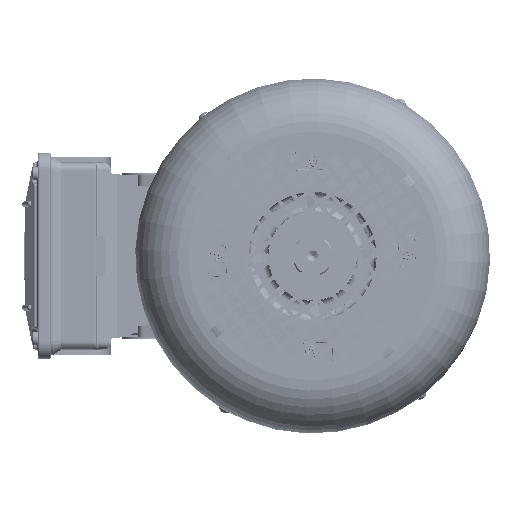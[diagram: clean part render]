
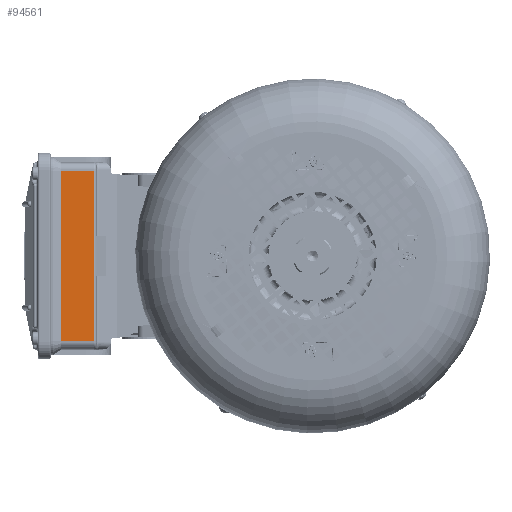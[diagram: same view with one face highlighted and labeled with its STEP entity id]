
A CAD part, left-side view. The second image highlights one B-rep face of the part: STEP entity #94561.
In plain terms, the highlighted planar face has unit normal (-1, 0, 0) as drawn and (1, 0, 0) by its records, which use the part's own axes.
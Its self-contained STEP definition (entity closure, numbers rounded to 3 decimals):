
#1135 = DIRECTION ( 'NONE',  ( 0., 0., 1. ) ) ;
#4353 = AXIS2_PLACEMENT_3D ( 'NONE', #5891, #18408, #105190 ) ;
#5891 = CARTESIAN_POINT ( 'NONE',  ( 92.5, -282.704, -62.5 ) ) ;
#11300 = CARTESIAN_POINT ( 'NONE',  ( 92.5, -282.704, -62.5 ) ) ;
#13905 = VECTOR ( 'NONE', #1135, 1000. ) ;
#16461 = VERTEX_POINT ( 'NONE', #102244 ) ;
#18408 = DIRECTION ( 'NONE',  ( -1., 0., 0. ) ) ;
#39490 = CARTESIAN_POINT ( 'NONE',  ( 92.5, -11.7, -62.5 ) ) ;
#41153 = CARTESIAN_POINT ( 'NONE',  ( 92.5, -35.5, -62.5 ) ) ;
#45453 = EDGE_CURVE ( 'NONE', #114193, #16461, #112890, .T. ) ;
#48240 = DIRECTION ( 'NONE',  ( 0., 0., -1. ) ) ;
#54042 = EDGE_CURVE ( 'NONE', #122317, #16461, #129870, .T. ) ;
#60023 = DIRECTION ( 'NONE',  ( 0., 1., 0. ) ) ;
#63019 = CARTESIAN_POINT ( 'NONE',  ( 92.5, -11.7, -62.5 ) ) ;
#64736 = ORIENTED_EDGE ( 'NONE', *, *, #54042, .F. ) ;
#73659 = DIRECTION ( 'NONE',  ( 0., 1., 0. ) ) ;
#84997 = CARTESIAN_POINT ( 'NONE',  ( 92.5, -282.704, 62.5 ) ) ;
#92718 = PLANE ( 'NONE',  #4353 ) ;
#94561 = ADVANCED_FACE ( 'NONE', ( #153253 ), #92718, .F. ) ;
#97507 = EDGE_CURVE ( 'NONE', #124196, #114193, #143050, .T. ) ;
#102244 = CARTESIAN_POINT ( 'NONE',  ( 92.5, -11.7, 62.5 ) ) ;
#103544 = ORIENTED_EDGE ( 'NONE', *, *, #151741, .T. ) ;
#105190 = DIRECTION ( 'NONE',  ( 0., 0., 1. ) ) ;
#109956 = VECTOR ( 'NONE', #73659, 1000. ) ;
#112890 = LINE ( 'NONE', #63019, #13905 ) ;
#114193 = VERTEX_POINT ( 'NONE', #39490 ) ;
#121070 = CARTESIAN_POINT ( 'NONE',  ( 92.5, -35.5, 62.5 ) ) ;
#122060 = CARTESIAN_POINT ( 'NONE',  ( 92.5, -35.5, -62.5 ) ) ;
#122317 = VERTEX_POINT ( 'NONE', #121070 ) ;
#123189 = VECTOR ( 'NONE', #48240, 1000. ) ;
#124196 = VERTEX_POINT ( 'NONE', #41153 ) ;
#129870 = LINE ( 'NONE', #84997, #158929 ) ;
#143050 = LINE ( 'NONE', #11300, #109956 ) ;
#149261 = ORIENTED_EDGE ( 'NONE', *, *, #45453, .T. ) ;
#151252 = EDGE_LOOP ( 'NONE', ( #64736, #103544, #157484, #149261 ) ) ;
#151741 = EDGE_CURVE ( 'NONE', #122317, #124196, #156178, .T. ) ;
#153253 = FACE_OUTER_BOUND ( 'NONE', #151252, .T. ) ;
#156178 = LINE ( 'NONE', #122060, #123189 ) ;
#157484 = ORIENTED_EDGE ( 'NONE', *, *, #97507, .T. ) ;
#158929 = VECTOR ( 'NONE', #60023, 1000. ) ;
